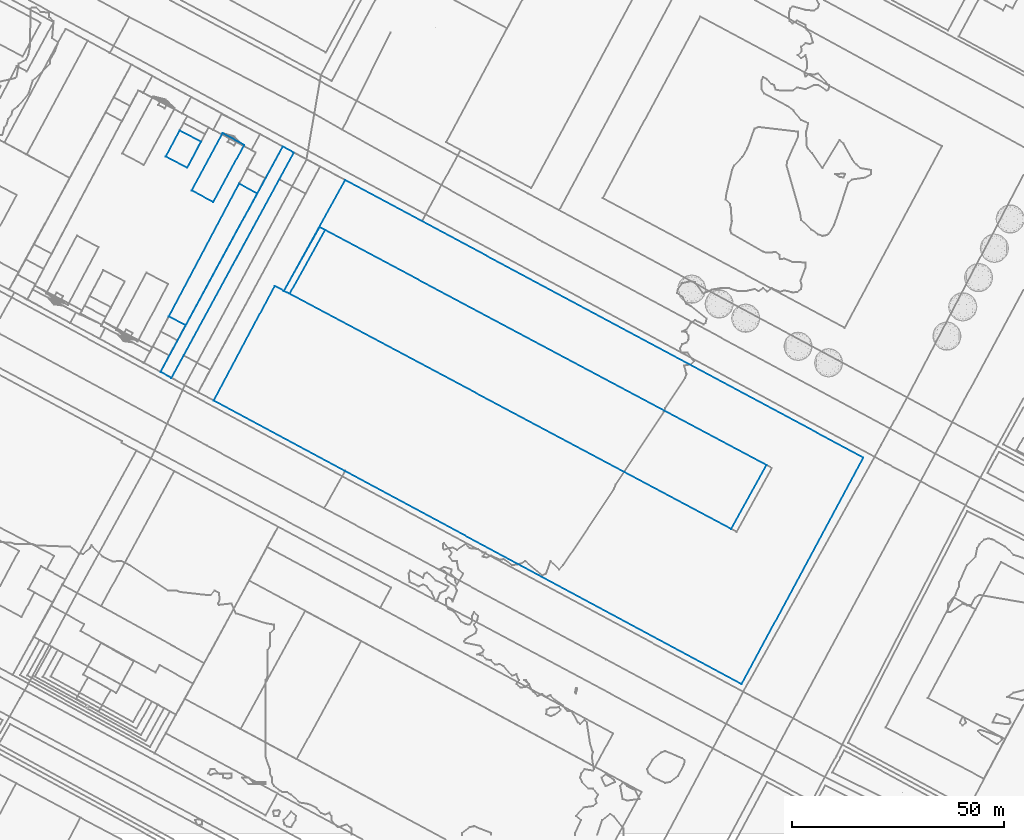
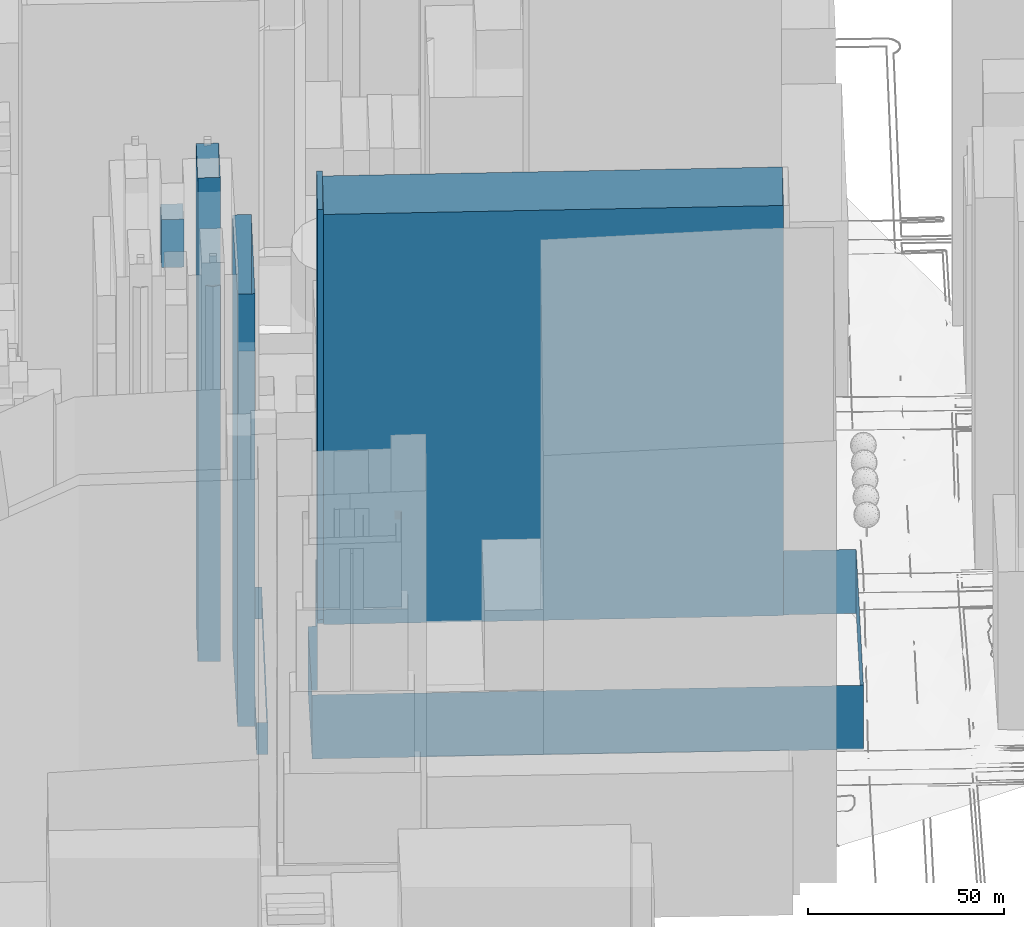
# Not in any storey, part 21 of 80: 7 walls.
"""IFC4 building model written with IfcOpenShell, lengths in metres."""

from ifc_helpers import new_model, si_unit, frame, origin_with_axes, place, context, subcontext, project, spatial, polygons, element, save


model = new_model("IFC4")

# Units and contexts
model_context = context("Model", 3, precision=1e-05, world=origin_with_axes())
body_context = subcontext(model_context, "Body", "Model", "MODEL_VIEW")
ifc_project = project(units=[si_unit("AREAUNIT", "SQUARE_METRE"), si_unit("LENGTHUNIT", "METRE")], contexts=[model_context])

# Sites, building
site_1_placement = place(None, origin_with_axes())
site_1 = spatial("IfcSite", under=ifc_project, at=site_1_placement, Name="Topoexport Site")
site_2_placement = place(site_1_placement, origin_with_axes())
site_2 = spatial("IfcSite", under=site_1, at=site_2_placement, Name="TPX_BATIMENTS")
building_1_placement = place(site_2_placement, frame((145.8163168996, 126.9152581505, 39.4739662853), z_axis=(0.0, 0.0, 1.0), x_axis=(1.0, 0.0, 0.0)))
building_1 = spatial("IfcBuilding", under=site_2, at=building_1_placement, Name="Batiment 37", CompositionType="ELEMENT")

# Wall
wall_1_placement = place(None, frame((145.8163168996, 126.9152581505, 39.4739662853), z_axis=(0.0, 0.0, 1.0), x_axis=(1.0, 0.0, 0.0)))
element("IfcWall", 1, at=wall_1_placement, inside=building_1, Name="Mur 0", context=body_context, shape_type="Tessellation", body=[
    polygons([(0.0, 0.0, 0.0), (103.867286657, -55.3249895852, 0.0), (112.1849689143, -40.3178861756, 0.0), (8.3262633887, 15.0070838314, 0.0), (0.0, 0.0, 128.0), (103.867286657, -55.3249895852, 128.0), (112.1849689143, -40.3178861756, 128.0), (8.3262633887, 15.0070838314, 128.0)], [[[6, 5, 2]], [[2, 5, 1]], [[7, 6, 3]], [[3, 6, 2]], [[5, 8, 1]], [[1, 8, 4]], [[8, 7, 4]], [[4, 7, 3]]]),
])

# Building
building_2_placement = place(site_2_placement, frame((127.9503385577, 101.7942196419, 19.0609188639), z_axis=(0.0, 0.0, 1.0), x_axis=(1.0, 0.0, 0.0)))
building_2 = spatial("IfcBuilding", under=site_2, at=building_2_placement, Name="Batiment 38", CompositionType="ELEMENT")

# Wall
wall_2_placement = place(None, frame((127.9503385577, 101.7942196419, 19.0609188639), z_axis=(0.0, 0.0, 1.0), x_axis=(1.0, 0.0, 0.0)))
element("IfcWall", 2, at=wall_2_placement, inside=building_2, Name="Mur 0", context=body_context, shape_type="Tessellation", body=[
    polygons([(0.0, 0.0, 0.0), (124.2012870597, -66.7460663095, 0.0), (152.8564476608, -13.4215566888, 0.0), (30.9179421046, 51.8848183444, 0.0), (16.4988125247, 25.8156958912, 0.0), (14.3495804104, 26.9786628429, 0.0), (0.0, 0.0, 20.0), (124.2012870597, -66.7460663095, 20.0), (152.8564476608, -13.4215566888, 20.0), (30.9179421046, 51.8848183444, 20.0), (16.4988125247, 25.8156958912, 20.0), (14.3495804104, 26.9786628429, 20.0)], [[[8, 7, 2]], [[2, 7, 1]], [[9, 8, 3]], [[3, 8, 2]], [[10, 9, 4]], [[4, 9, 3]], [[11, 10, 5]], [[5, 10, 4]], [[7, 12, 1]], [[1, 12, 6]], [[12, 11, 6]], [[6, 11, 5]]]),
])

# Building
building_3_placement = place(site_2_placement, frame((144.4491510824, 127.6099155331, 41.0408020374), z_axis=(0.0, 0.0, 1.0), x_axis=(1.0, 0.0, 0.0)))
building_3 = spatial("IfcBuilding", under=site_2, at=building_3_placement, Name="Batiment 44", CompositionType="ELEMENT")

# Wall
wall_3_placement = place(None, frame((144.4491510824, 127.6099155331, 41.0408020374), z_axis=(0.0, 0.0, 1.0), x_axis=(1.0, 0.0, 0.0)))
element("IfcWall", 3, at=wall_3_placement, inside=building_3, Name="Mur 0", context=body_context, shape_type="Tessellation", body=[
    polygons([(0.0, 0.0, 0.0), (1.3671658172, -0.6946573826, 0.0), (9.6934292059, 14.3124264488, 0.0), (8.4192388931, 14.9970605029, 0.0), (0.0, 0.0, 128.0), (1.3671658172, -0.6946573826, 128.0), (9.6934292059, 14.3124264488, 128.0), (8.4192388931, 14.9970605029, 128.0)], [[[6, 5, 2]], [[2, 5, 1]], [[7, 6, 3]], [[3, 6, 2]], [[5, 8, 1]], [[1, 8, 4]], [[8, 7, 4]], [[4, 7, 3]]]),
])

# Building
building_4_placement = place(site_2_placement, frame((117.3791727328, 121.6110559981, 20.8267398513), z_axis=(0.0, 0.0, 1.0), x_axis=(1.0, 0.0, 0.0)))
building_4 = spatial("IfcBuilding", under=site_2, at=building_4_placement, Name="Batiment 45", CompositionType="ELEMENT")

# Wall
wall_4_placement = place(None, frame((117.3791727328, 121.6110559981, 20.8267398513), z_axis=(0.0, 0.0, 1.0), x_axis=(1.0, 0.0, 0.0)))
element("IfcWall", 4, at=wall_4_placement, inside=building_4, Name="Mur 0", context=body_context, shape_type="Tessellation", body=[
    polygons([(0.0, 0.0, 0.0), (3.9330714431, -2.1192496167, 0.0), (20.7848229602, 28.9185921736, 0.0), (16.537532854, 31.2007155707, 0.0), (0.0, 0.0, 135.0), (3.9330714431, -2.1192496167, 135.0), (20.7848229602, 28.9185921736, 135.0), (16.537532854, 31.2007155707, 135.0)], [[[6, 5, 2]], [[2, 5, 1]], [[7, 6, 3]], [[3, 6, 2]], [[5, 8, 1]], [[1, 8, 4]], [[8, 7, 4]], [[4, 7, 3]]]),
])

# Building
building_5_placement = place(site_2_placement, frame((115.4207049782, 108.532058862, 20.6954997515), z_axis=(0.0, 0.0, 1.0), x_axis=(1.0, 0.0, 0.0)))
building_5 = spatial("IfcBuilding", under=site_2, at=building_5_placement, Name="Batiment 46", CompositionType="ELEMENT")

# Wall
wall_5_placement = place(None, frame((115.4207049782, 108.532058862, 20.6954997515), z_axis=(0.0, 0.0, 1.0), x_axis=(1.0, 0.0, 0.0)))
element("IfcWall", 5, at=wall_5_placement, inside=building_5, Name="Mur 0", context=body_context, shape_type="Tessellation", body=[
    polygons([(0.0, 0.0, 0.0), (2.5572123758, -1.4024849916, 0.0), (31.3771339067, 51.6014424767, 0.0), (28.7687753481, 53.0477319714, 0.0), (0.0, 0.0, 10.0), (2.5572123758, -1.4024849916, 10.0), (31.3771339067, 51.6014424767, 10.0), (28.7687753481, 53.0477319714, 10.0)], [[[6, 5, 2]], [[2, 5, 1]], [[7, 6, 3]], [[3, 6, 2]], [[5, 8, 1]], [[1, 8, 4]], [[8, 7, 4]], [[4, 7, 3]]]),
])

# Building
building_6_placement = place(site_2_placement, frame((116.6721914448, 159.2172708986, 141.4782063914), z_axis=(0.0, 0.0, 1.0), x_axis=(1.0, 0.0, 0.0)))
building_6 = spatial("IfcBuilding", under=site_2, at=building_6_placement, Name="Batiment 56", CompositionType="ELEMENT")

# Wall
wall_6_placement = place(None, frame((116.6721914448, 159.2172708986, 141.4782063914), z_axis=(0.0, 0.0, 1.0), x_axis=(1.0, 0.0, 0.0)))
element("IfcWall", 6, at=wall_6_placement, inside=building_6, Name="Mur 0", context=body_context, shape_type="Tessellation", body=[
    polygons([(0.0, 0.0, 0.0), (5.0281825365, -2.6505379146, 0.0), (8.2745883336, 3.4712109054, 0.0), (3.2380972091, 6.1105477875, 0.0), (0.0, 0.0, 15.0), (5.0281825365, -2.6505379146, 15.0), (8.2745883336, 3.4712109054, 15.0), (3.2380972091, 6.1105477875, 15.0)], [[[6, 5, 2]], [[2, 5, 1]], [[7, 6, 3]], [[3, 6, 2]], [[5, 8, 1]], [[1, 8, 4]], [[8, 7, 4]], [[4, 7, 3]]]),
])

# Building
building_7_placement = place(site_2_placement, frame((122.7499311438, 151.2387428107, 21.2252541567), z_axis=(0.0, 0.0, 1.0), x_axis=(1.0, 0.0, 0.0)))
building_7 = spatial("IfcBuilding", under=site_2, at=building_7_placement, Name="Batiment 63", CompositionType="ELEMENT")

# Wall
wall_7_placement = place(None, frame((122.7499311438, 151.2387428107, 21.2252541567), z_axis=(0.0, 0.0, 1.0), x_axis=(1.0, 0.0, 0.0)))
element("IfcWall", 7, at=wall_7_placement, inside=building_7, Name="Mur 0", context=body_context, shape_type="Tessellation", body=[
    polygons([(0.0, 0.0, 0.0), (5.0798643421, -2.738751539, 0.0), (12.3774568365, 10.713146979, 0.0), (7.2975986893, 13.4518934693, 0.0), (0.0, 0.0, 151.0), (5.0798643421, -2.738751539, 151.0), (12.3774568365, 10.713146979, 151.0), (7.2975986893, 13.4518934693, 151.0)], [[[6, 5, 2]], [[2, 5, 1]], [[7, 6, 3]], [[3, 6, 2]], [[5, 8, 1]], [[1, 8, 4]], [[8, 7, 4]], [[4, 7, 3]]]),
])

save(model, "model.ifc")
